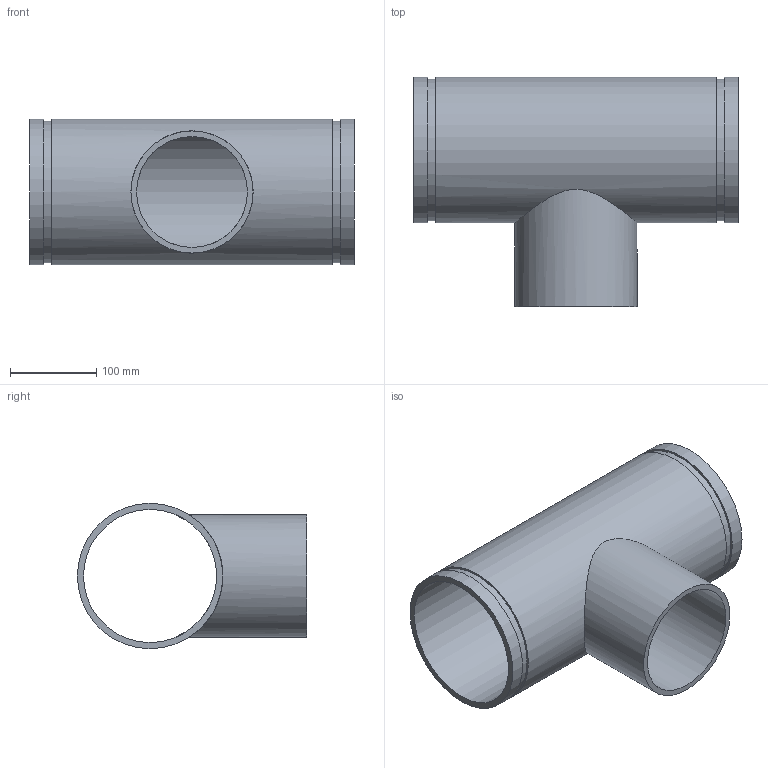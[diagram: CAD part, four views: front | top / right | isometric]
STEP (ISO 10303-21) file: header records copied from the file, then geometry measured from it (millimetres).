
FILE_DESCRIPTION(/* description */ ('VIC REDUCING TEE No 29T FFT (OGSxMPT)','CAx-IF Rec.Pracs.---Representation and Presentation of Product Manufacturing Information (PMI)---4.0---2014-10-13'),/* implementation_level */ '2;1');
FILE_NAME(/* name */ 'C:\Users\kkamble\AppData\Roaming\Autodesk\ApplicationPlugins\Back Up\Victaulic_IPS_Tee Reducing_No 29T FFT (OGSxMPT)\Victaulic_IPS_Tee Reducing_No 29T FFT (OGSxMPT)_06.0x05.0 (150x125).stp',/* time_stamp */ '2020-09-16T22:38:43+05:00',/* author */ ('CORINNE GRAY'),/* organization */ ('Victaulic'),/* preprocessor_version */ 'ST-DEVELOPER v17.2',/* originating_system */ 'Autodesk Inventor 2019',/* authorisation */ '');
FILE_SCHEMA (('AP242_MANAGED_MODEL_BASED_3D_ENGINEERING_MIM_LF { 1 0 10303 442 1 1 4 }'));
Length unit declared in the file: inch
Products named in the file (1): 29 FFT-06.0x05.0
Bounding box: 374.9 x 265.24 x 168.28 mm (x, y, z)
Volume: 1539908.8 mm3; surface area: 460947 mm2
Topology: 1 solids, 1 shells, 15 faces, 32 edges, 24 vertices
Faces by surface type: cylinder 8, plane 7
Full cylindrical faces by diameter (mm): 128.194 x1, 141.3 x1, 154.051 x1, 163.957 x2, 168.275 x3
Entity records: 709 total; most frequent: CARTESIAN_POINT 221, DIRECTION 106, ORIENTED_EDGE 64, AXIS2_PLACEMENT_3D 49, EDGE_CURVE 32, EDGE_LOOP 24, VERTEX_POINT 24, CIRCLE 20
